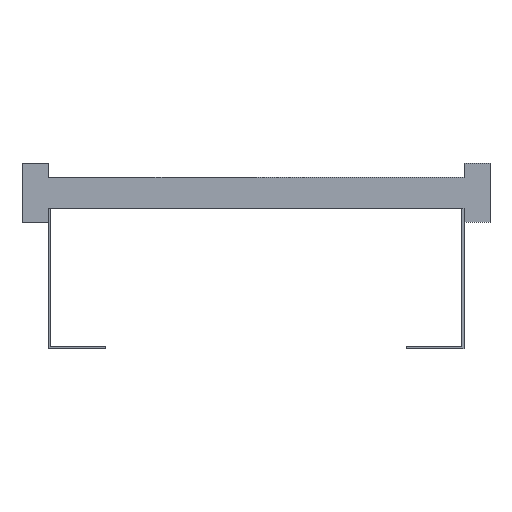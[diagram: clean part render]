
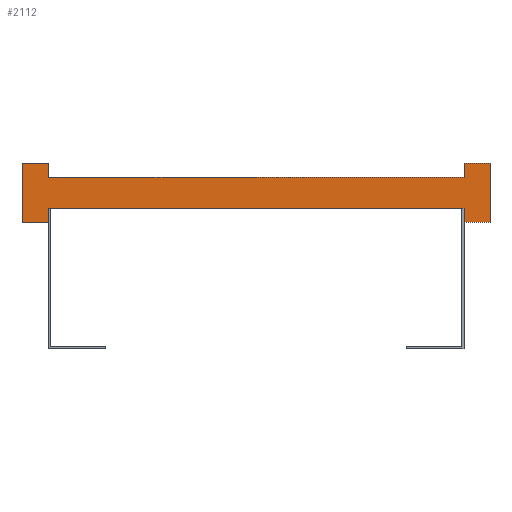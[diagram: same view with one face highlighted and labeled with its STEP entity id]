
A CAD part, front view. The second image highlights one B-rep face of the part: STEP entity #2112.
In plain terms, the highlighted planar face has unit normal (0, -1, 0).
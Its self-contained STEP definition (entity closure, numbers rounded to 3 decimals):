
#1=DIRECTION('',(0.,0.,1.));
#2=VECTOR('',#1,13.5);
#3=CARTESIAN_POINT('',(200.,0.,-28.5));
#4=LINE('',#3,#2);
#5=DIRECTION('',(0.,0.,-1.));
#6=VECTOR('',#5,13.5);
#7=CARTESIAN_POINT('',(-200.,0.,-15.));
#8=LINE('',#7,#6);
#9=DIRECTION('',(-1.,0.,0.));
#10=VECTOR('',#9,25.);
#11=CARTESIAN_POINT('',(-200.,0.,-28.5));
#12=LINE('',#11,#10);
#13=DIRECTION('',(0.,0.,1.));
#14=VECTOR('',#13,57.);
#15=CARTESIAN_POINT('',(-225.,0.,-28.5));
#16=LINE('',#15,#14);
#17=DIRECTION('',(1.,0.,0.));
#18=VECTOR('',#17,25.);
#19=CARTESIAN_POINT('',(-225.,0.,28.5));
#20=LINE('',#19,#18);
#21=DIRECTION('',(0.,0.,-1.));
#22=VECTOR('',#21,13.5);
#23=CARTESIAN_POINT('',(-200.,0.,28.5));
#24=LINE('',#23,#22);
#25=DIRECTION('',(0.,0.,1.));
#26=VECTOR('',#25,13.5);
#27=CARTESIAN_POINT('',(200.,0.,15.));
#28=LINE('',#27,#26);
#29=DIRECTION('',(1.,0.,0.));
#30=VECTOR('',#29,25.);
#31=CARTESIAN_POINT('',(200.,0.,28.5));
#32=LINE('',#31,#30);
#33=DIRECTION('',(0.,0.,-1.));
#34=VECTOR('',#33,57.);
#35=CARTESIAN_POINT('',(225.,0.,28.5));
#36=LINE('',#35,#34);
#37=DIRECTION('',(-1.,0.,0.));
#38=VECTOR('',#37,25.);
#39=CARTESIAN_POINT('',(225.,0.,-28.5));
#40=LINE('',#39,#38);
#1553=DIRECTION('',(1.,0.,0.));
#1554=VECTOR('',#1553,400.);
#1555=CARTESIAN_POINT('',(-200.,0.,-15.));
#1556=LINE('',#1555,#1554);
#1565=DIRECTION('',(1.,0.,0.));
#1566=VECTOR('',#1565,400.);
#1567=CARTESIAN_POINT('',(-200.,0.,15.));
#1568=LINE('',#1567,#1566);
#1569=CARTESIAN_POINT('',(-225.,0.,28.5));
#1570=CARTESIAN_POINT('',(-200.,0.,28.5));
#1571=VERTEX_POINT('',#1569);
#1572=VERTEX_POINT('',#1570);
#1573=CARTESIAN_POINT('',(-200.,0.,-28.5));
#1574=CARTESIAN_POINT('',(-225.,0.,-28.5));
#1575=VERTEX_POINT('',#1573);
#1576=VERTEX_POINT('',#1574);
#1577=CARTESIAN_POINT('',(225.,0.,28.5));
#1578=CARTESIAN_POINT('',(225.,0.,-28.5));
#1579=VERTEX_POINT('',#1577);
#1580=VERTEX_POINT('',#1578);
#1581=CARTESIAN_POINT('',(200.,0.,-28.5));
#1582=VERTEX_POINT('',#1581);
#1583=CARTESIAN_POINT('',(200.,0.,28.5));
#1584=VERTEX_POINT('',#1583);
#1601=CARTESIAN_POINT('',(-200.,0.,-15.));
#1603=VERTEX_POINT('',#1601);
#1605=CARTESIAN_POINT('',(-200.,0.,15.));
#1607=VERTEX_POINT('',#1605);
#1609=CARTESIAN_POINT('',(200.,0.,-15.));
#1611=VERTEX_POINT('',#1609);
#1613=CARTESIAN_POINT('',(200.,0.,15.));
#1615=VERTEX_POINT('',#1613);
#2081=CARTESIAN_POINT('',(0.,0.,0.));
#2082=DIRECTION('',(0.,1.,0.));
#2083=DIRECTION('',(1.,0.,0.));
#2084=AXIS2_PLACEMENT_3D('',#2081,#2082,#2083);
#2085=PLANE('',#2084);
#2087=ORIENTED_EDGE('',*,*,#2086,.T.);
#2089=ORIENTED_EDGE('',*,*,#2088,.F.);
#2091=ORIENTED_EDGE('',*,*,#2090,.T.);
#2093=ORIENTED_EDGE('',*,*,#2092,.T.);
#2095=ORIENTED_EDGE('',*,*,#2094,.T.);
#2097=ORIENTED_EDGE('',*,*,#2096,.T.);
#2099=ORIENTED_EDGE('',*,*,#2098,.T.);
#2101=ORIENTED_EDGE('',*,*,#2100,.T.);
#2103=ORIENTED_EDGE('',*,*,#2102,.T.);
#2105=ORIENTED_EDGE('',*,*,#2104,.T.);
#2107=ORIENTED_EDGE('',*,*,#2106,.T.);
#2109=ORIENTED_EDGE('',*,*,#2108,.T.);
#2110=EDGE_LOOP('',(#2087,#2089,#2091,#2093,#2095,#2097,#2099,#2101,#2103,#2105,
#2107,#2109));
#2111=FACE_OUTER_BOUND('',#2110,.F.);
#2112=ADVANCED_FACE('',(#2111),#2085,.F.);
#2086=EDGE_CURVE('',#1582,#1611,#4,.T.);
#2088=EDGE_CURVE('',#1603,#1611,#1556,.T.);
#2090=EDGE_CURVE('',#1603,#1575,#8,.T.);
#2092=EDGE_CURVE('',#1575,#1576,#12,.T.);
#2094=EDGE_CURVE('',#1576,#1571,#16,.T.);
#2096=EDGE_CURVE('',#1571,#1572,#20,.T.);
#2098=EDGE_CURVE('',#1572,#1607,#24,.T.);
#2100=EDGE_CURVE('',#1607,#1615,#1568,.T.);
#2102=EDGE_CURVE('',#1615,#1584,#28,.T.);
#2104=EDGE_CURVE('',#1584,#1579,#32,.T.);
#2106=EDGE_CURVE('',#1579,#1580,#36,.T.);
#2108=EDGE_CURVE('',#1580,#1582,#40,.T.);
